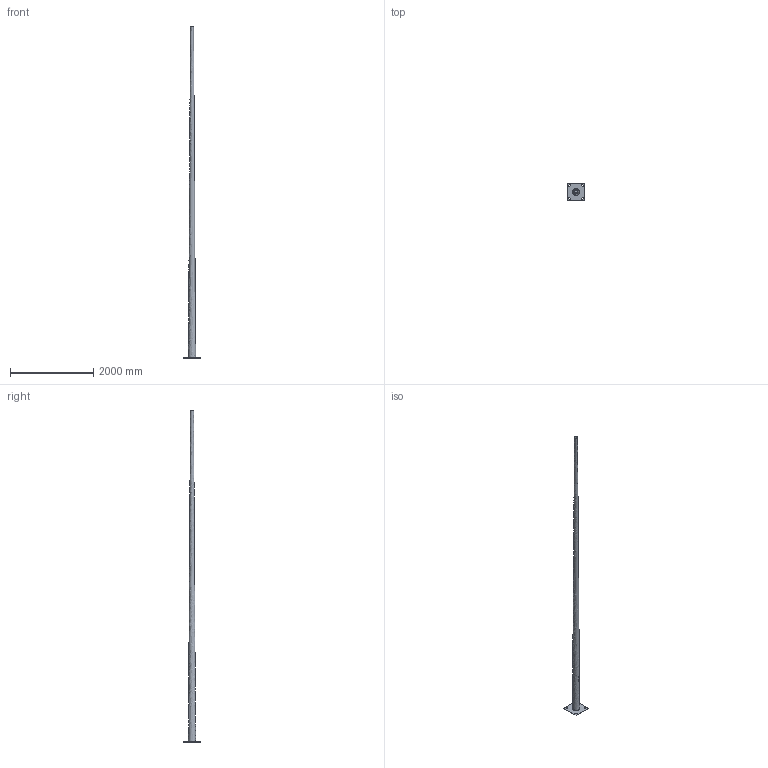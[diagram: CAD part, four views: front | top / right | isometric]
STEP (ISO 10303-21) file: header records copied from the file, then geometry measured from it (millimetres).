
FILE_DESCRIPTION(('FreeCAD Model'),'2;1');
FILE_NAME('Open CASCADE Shape Model','2024-12-18T15:05:14',(''),(''), 'Open CASCADE STEP processor 7.8','FreeCAD','Unknown');
FILE_SCHEMA(('AUTOMOTIVE_DESIGN { 1 0 10303 214 1 1 1 1 }'));
Length unit declared in the file: millimetre
Products named in the file (1): Body
Bounding box: 412 x 412 x 8000 mm (x, y, z)
Volume: 10012147.2 mm3; surface area: 6467824.1 mm2
Topology: 1 solids, 1 shells, 51 faces, 140 edges, 93 vertices
Faces by surface type: plane 32, cylinder 16, bspline 2, offset 1
Entity records: 3060 total; most frequent: CARTESIAN_POINT 1817, ORIENTED_EDGE 280, DIRECTION 198, EDGE_CURVE 140, VERTEX_POINT 93, LINE 68, VECTOR 68, AXIS2_PLACEMENT_3D 65
